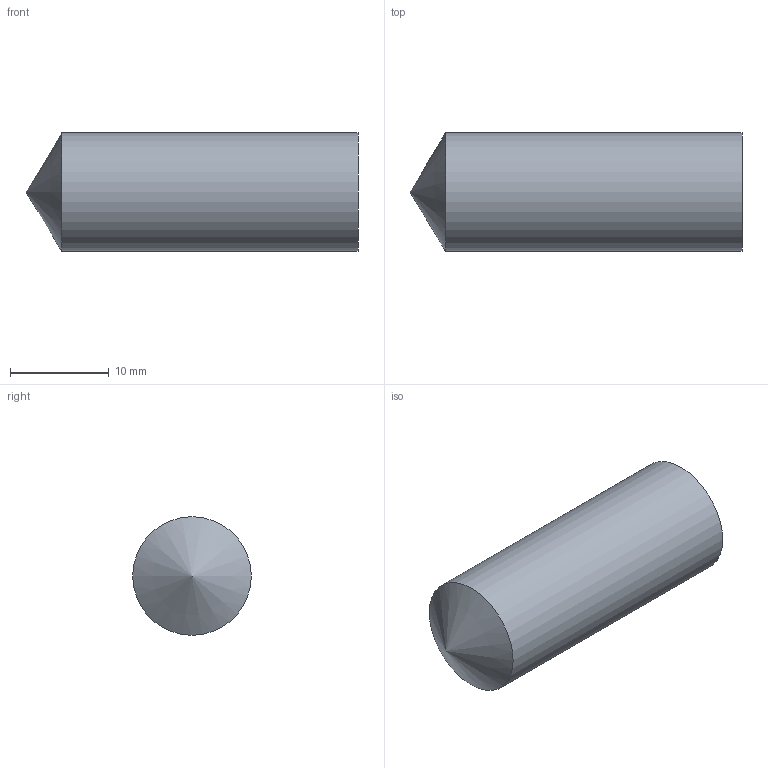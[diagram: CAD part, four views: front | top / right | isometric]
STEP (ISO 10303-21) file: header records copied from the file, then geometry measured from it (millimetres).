
FILE_DESCRIPTION(/* description */ (''),/* implementation_level */ '2;1');
FILE_NAME(/* name */ 'C:\Users\matthiask.LAMELLONET\Desktop\Bohrung_D12x30mm.stp',/* time_stamp */ '2021-07-09T09:23:07+02:00',/* author */ ('matthiask'),/* organization */ (''),/* preprocessor_version */ 'ST-DEVELOPER v18',/* originating_system */ 'Autodesk Inventor 2020',/* authorisation */ '');
FILE_SCHEMA (('AUTOMOTIVE_DESIGN { 1 0 10303 214 3 1 1 }'));
Length unit declared in the file: millimetre
Products named in the file (1): Bohrung D8x16.5
Bounding box: 33.61 x 12 x 12 mm (x, y, z)
Volume: 3528.8 mm3; surface area: 1376 mm2
Topology: 1 solids, 1 shells, 3 faces, 7 edges, 5 vertices
Faces by surface type: cylinder 1, plane 1, cone 1
Full cylindrical faces by diameter (mm): 12 x1
Entity records: 129 total; most frequent: DIRECTION 18, CARTESIAN_POINT 15, ORIENTED_EDGE 12, AXIS2_PLACEMENT_3D 8, EDGE_CURVE 6, VERTEX_POINT 5, CIRCLE 4, FACE_OUTER_BOUND 3
